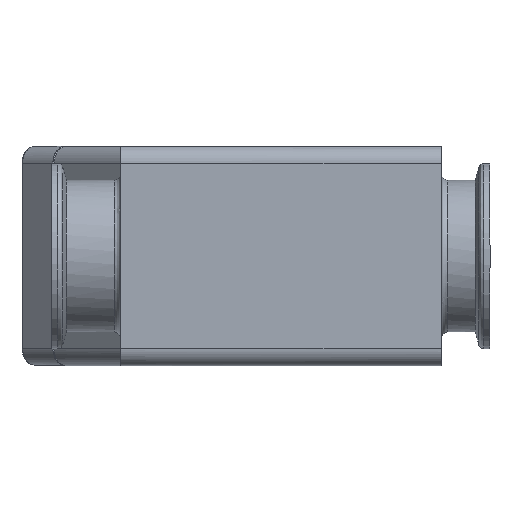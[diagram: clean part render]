
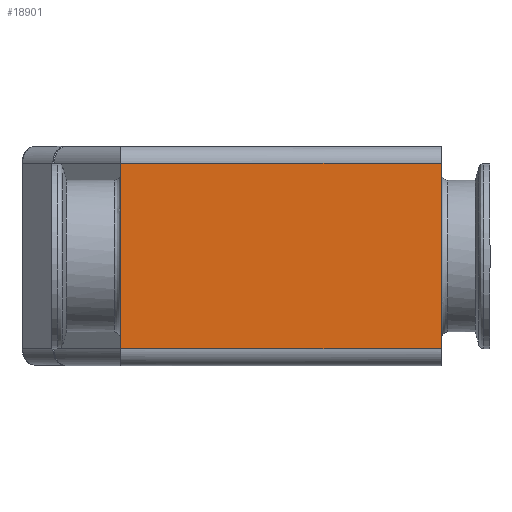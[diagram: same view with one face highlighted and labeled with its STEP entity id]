
A CAD part, front view. The second image highlights one B-rep face of the part: STEP entity #18901.
In plain terms, the highlighted free-form (B-spline) face has degree [1, 1] with [2, 2] control points.
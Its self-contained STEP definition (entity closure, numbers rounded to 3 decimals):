
#18829=CARTESIAN_POINT('V11',(0.0,0.0,5.0));
#18830=VERTEX_POINT('V11',#18829);
#18844=CARTESIAN_POINT('V18',(95.0,0.,5.0));
#18845=VERTEX_POINT('V18',#18844);
#18846=CARTESIAN_POINT('E24',(0.0,0.0,5.0));
#18847=CARTESIAN_POINT('E24',(95.0,0.,5.0));
#18848=B_SPLINE_CURVE_WITH_KNOTS('E24',1,(#18846,#18847),
   .POLYLINE_FORM.,.F.,.U.,(2,2),(2.0,14.096),
   .UNSPECIFIED.);
#18849=EDGE_CURVE('E24',#18830,#18845,#18848,.T.);
#18874=CARTESIAN_POINT('F24',(0.0,0.0,0.0));
#18875=CARTESIAN_POINT('F24',(95.0,0.,0.0));
#18876=CARTESIAN_POINT('F24',(0.0,0.0,65.0));
#18877=CARTESIAN_POINT('F24',(95.0,0.,65.0));
#18878=B_SPLINE_SURFACE_WITH_KNOTS('F24',1,1,((#18874,#18876),(
   #18875,#18877)),.PLANE_SURF.,.F.,.F.,.U.,(2,2),(2,2),(0.0,
   1.462),(0.0,1.0),.UNSPECIFIED.);
#18879=CARTESIAN_POINT('V17',(95.0,0.,60.)
   );
#18880=VERTEX_POINT('V17',#18879);
#18881=CARTESIAN_POINT('V12',(0.0,0.0,60.));
#18882=VERTEX_POINT('V12',#18881);
#18883=CARTESIAN_POINT('E22',(95.0,0.,60.)
   );
#18884=CARTESIAN_POINT('E22',(0.0,0.0,60.));
#18885=B_SPLINE_CURVE_WITH_KNOTS('E22',1,(#18883,#18884),
   .POLYLINE_FORM.,.F.,.U.,(2,2),(2.0,14.096),
   .UNSPECIFIED.);
#18886=EDGE_CURVE('E22',#18880,#18882,#18885,.T.);
#18887=ORIENTED_EDGE('E22',*,*,#18886,.F.);
#18888=CARTESIAN_POINT('E57',(95.0,0.,5.0));
#18889=CARTESIAN_POINT('E57',(95.0,0.,60.)
   );
#18890=B_SPLINE_CURVE_WITH_KNOTS('E57',1,(#18888,#18889),
   .POLYLINE_FORM.,.F.,.U.,(2,2),(0.077,
   0.923),.UNSPECIFIED.);
#18891=EDGE_CURVE('E57',#18845,#18880,#18890,.T.);
#18892=ORIENTED_EDGE('E57',*,*,#18891,.F.);
#18893=ORIENTED_EDGE('E24',*,*,#18849,.F.);
#18894=CARTESIAN_POINT('E13',(0.0,0.0,5.0));
#18895=CARTESIAN_POINT('E13',(0.0,0.0,60.));
#18896=B_SPLINE_CURVE_WITH_KNOTS('E13',1,(#18894,#18895),
   .POLYLINE_FORM.,.F.,.U.,(2,2),(0.077,
   0.923),.UNSPECIFIED.);
#18897=EDGE_CURVE('E13',#18830,#18882,#18896,.T.);
#18898=ORIENTED_EDGE('E13',*,*,#18897,.T.);
#18899=EDGE_LOOP('F24',(#18887,#18892,#18893,#18898));
#18900=FACE_OUTER_BOUND('F24',#18899,.F.);
#18901=ADVANCED_FACE('F24',(#18900),#18878,.T.);
